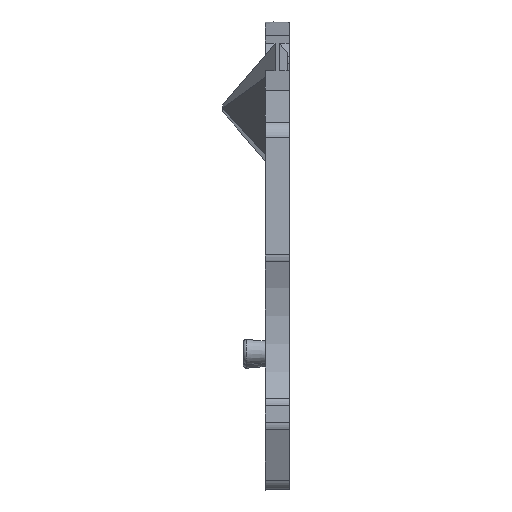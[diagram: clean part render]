
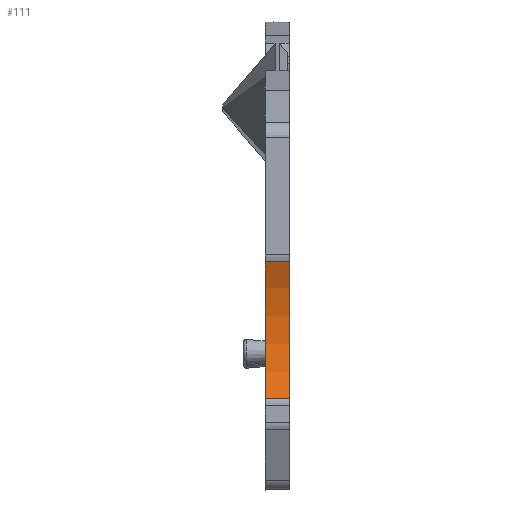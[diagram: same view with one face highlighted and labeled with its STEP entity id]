
A CAD part, front view. The second image highlights one B-rep face of the part: STEP entity #111.
In plain terms, the highlighted cylindrical face has radius 15 mm (diameter 30 mm), a partial arc.
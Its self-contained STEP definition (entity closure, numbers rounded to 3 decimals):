
#70=CARTESIAN_POINT('',(-0.22,-13.519,14.5));
#71=DIRECTION('',(0.,0.91,-0.414));
#72=DIRECTION('',(1.,0.,0.));
#73=AXIS2_PLACEMENT_3D('',#70,#72,#71);
#74=CYLINDRICAL_SURFACE('',#73,15.);
#75=CARTESIAN_POINT('',(2.2,0.135,8.288));
#76=VERTEX_POINT('',#75);
#77=CARTESIAN_POINT('',(0.,0.135,8.288));
#78=VERTEX_POINT('',#77);
#79=CARTESIAN_POINT('',(2.2,0.135,8.288));
#80=DIRECTION('',(-1.,0.,0.));
#81=VECTOR('',#80,2.2);
#82=LINE('',#79,#81);
#83=EDGE_CURVE('',#76,#78,#82,.T.);
#84=ORIENTED_EDGE('E570',*,*,#83,.T.);
#85=CARTESIAN_POINT('',(0.,0.135,20.712));
#86=VERTEX_POINT('',#85);
#87=CARTESIAN_POINT('',(0.,-13.519,14.5));
#88=DIRECTION('',(0.,0.91,0.414));
#89=DIRECTION('',(-1.,0.,0.));
#90=AXIS2_PLACEMENT_3D('',#87,#89,#88);
#91=CIRCLE('',#90,15.);
#92=EDGE_CURVE('',#86,#78,#91,.T.);
#93=ORIENTED_EDGE('E1493',*,*,#92,.F.);
#94=CARTESIAN_POINT('',(2.2,0.135,20.712));
#95=VERTEX_POINT('',#94);
#96=CARTESIAN_POINT('',(0.,0.135,20.712));
#97=DIRECTION('',(1.,0.,0.));
#98=VECTOR('',#97,2.2);
#99=LINE('',#96,#98);
#100=EDGE_CURVE('',#86,#95,#99,.T.);
#101=ORIENTED_EDGE('E571',*,*,#100,.T.);
#102=CARTESIAN_POINT('',(2.2,-13.519,14.5));
#103=DIRECTION('',(0.,0.91,0.414));
#104=DIRECTION('',(-1.,0.,0.));
#105=AXIS2_PLACEMENT_3D('',#102,#104,#103);
#106=CIRCLE('',#105,15.);
#107=EDGE_CURVE('',#95,#76,#106,.T.);
#108=ORIENTED_EDGE('E1540',*,*,#107,.T.);
#109=EDGE_LOOP('',(#84,#93,#101,#108));
#110=FACE_OUTER_BOUND('',#109,.F.);
#111=ADVANCED_FACE('F33',(#110),#74,.F.);
